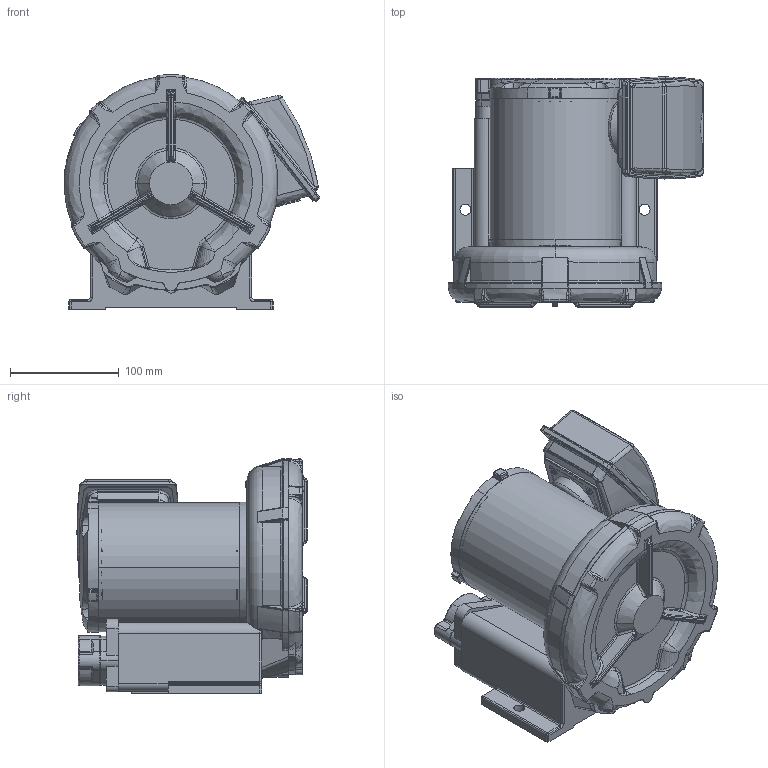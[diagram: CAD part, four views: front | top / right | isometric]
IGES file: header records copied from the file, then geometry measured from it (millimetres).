
Global section: file name: No Iges File Name specified; native system: AutoDesk Inventor R10; preprocessor: AutoDesk Inventor Iges Exporter R10; author: No Author specified; organization: No Organization specified; date: 20060310.152842; units: millimetre
Bounding box: 235.35 x 211.8 x 215.99 mm (x, y, z)
Volume: 3131852.3 mm3; surface area: 488134 mm2
Topology: 17 solids, 18 shells, 1432 faces, 3738 edges, 2267 vertices
Faces by surface type: bspline 433, cylinder 384, plane 257, revolution 195, torus 98, sphere 46, cone 19
